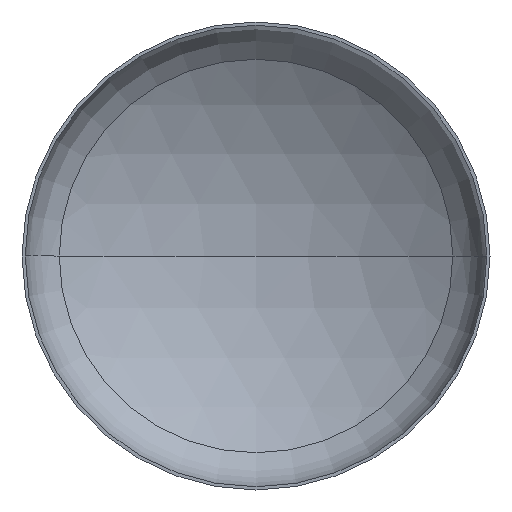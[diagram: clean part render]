
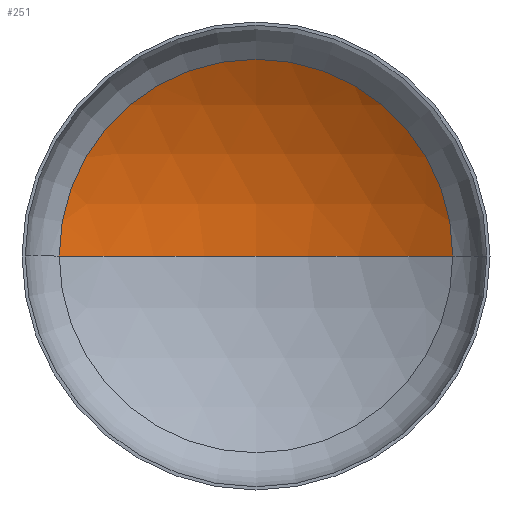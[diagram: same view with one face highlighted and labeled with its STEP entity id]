
A CAD part, front view. The second image highlights one B-rep face of the part: STEP entity #251.
In plain terms, the highlighted spherical face has radius 1280 mm.
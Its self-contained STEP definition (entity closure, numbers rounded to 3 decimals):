
#4 = AXIS2_PLACEMENT_3D ( 'NONE', #92, #99, #172 ) ;
#5 = DIRECTION ( 'NONE',  ( 0., 0., -1. ) ) ;
#9 = EDGE_LOOP ( 'NONE', ( #199, #186, #209 ) ) ;
#15 = AXIS2_PLACEMENT_3D ( 'NONE', #18, #5, #109 ) ;
#18 = CARTESIAN_POINT ( 'NONE',  ( 0., -840.505, 0. ) ) ;
#34 = AXIS2_PLACEMENT_3D ( 'NONE', #197, #371, #292 ) ;
#36 = AXIS2_PLACEMENT_3D ( 'NONE', #120, #330, #78 ) ;
#37 = VERTEX_POINT ( 'NONE', #196 ) ;
#69 = CARTESIAN_POINT ( 'NONE',  ( -672.773, 248.429, 0. ) ) ;
#78 = DIRECTION ( 'NONE',  ( 1., 0., 0. ) ) ;
#92 = CARTESIAN_POINT ( 'NONE',  ( 0., -840.505, 0. ) ) ;
#93 = EDGE_CURVE ( 'NONE', #37, #404, #143, .T. ) ;
#95 = EDGE_CURVE ( 'NONE', #365, #37, #363, .T. ) ;
#99 = DIRECTION ( 'NONE',  ( 0., 0., 1. ) ) ;
#109 = DIRECTION ( 'NONE',  ( -1., 0., 0. ) ) ;
#120 = CARTESIAN_POINT ( 'NONE',  ( 0., 248.429, 0. ) ) ;
#143 = CIRCLE ( 'NONE', #36, 672.773 ) ;
#172 = DIRECTION ( 'NONE',  ( 1., 0., 0. ) ) ;
#186 = ORIENTED_EDGE ( 'NONE', *, *, #95, .T. ) ;
#196 = CARTESIAN_POINT ( 'NONE',  ( 672.773, 248.429, 0. ) ) ;
#197 = CARTESIAN_POINT ( 'NONE',  ( 0., -840.505, 0. ) ) ;
#198 = FACE_OUTER_BOUND ( 'NONE', #9, .T. ) ;
#199 = ORIENTED_EDGE ( 'NONE', *, *, #323, .F. ) ;
#209 = ORIENTED_EDGE ( 'NONE', *, *, #93, .T. ) ;
#251 = ADVANCED_FACE ( 'NONE', ( #198 ), #340, .F. ) ;
#256 = CARTESIAN_POINT ( 'NONE',  ( 0., 439.495, 0. ) ) ;
#292 = DIRECTION ( 'NONE',  ( -1., 0., 0. ) ) ;
#323 = EDGE_CURVE ( 'NONE', #365, #404, #399, .T. ) ;
#330 = DIRECTION ( 'NONE',  ( 0., -1., 0. ) ) ;
#340 = SPHERICAL_SURFACE ( 'NONE', #15, 1280. ) ;
#363 = CIRCLE ( 'NONE', #34, 1280. ) ;
#365 = VERTEX_POINT ( 'NONE', #256 ) ;
#371 = DIRECTION ( 'NONE',  ( 0., 0., -1. ) ) ;
#399 = CIRCLE ( 'NONE', #4, 1280. ) ;
#404 = VERTEX_POINT ( 'NONE', #69 ) ;
